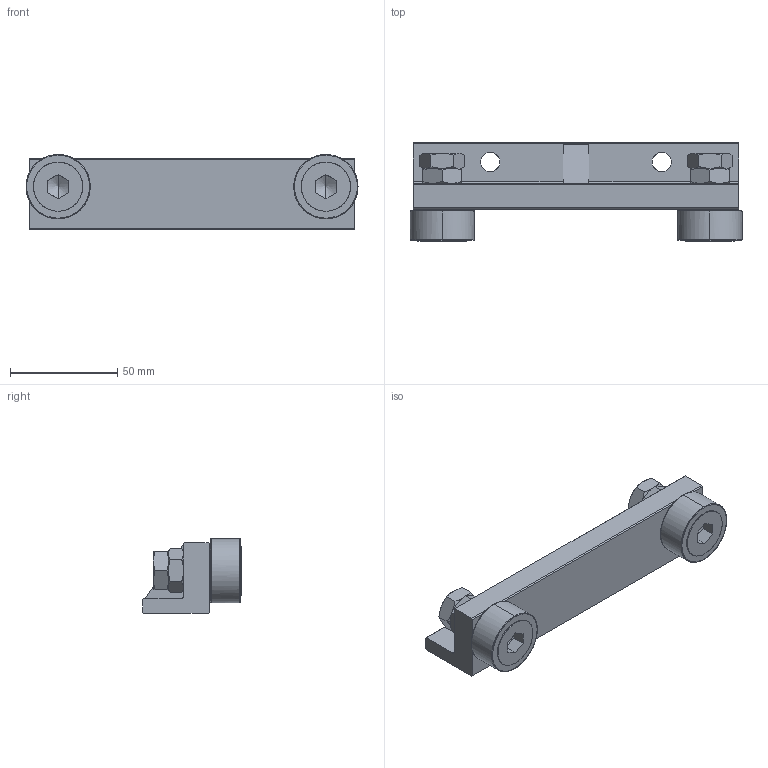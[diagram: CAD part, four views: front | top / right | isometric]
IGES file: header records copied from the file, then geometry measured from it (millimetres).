
Global section: file name: No Iges File Name specified; native system: AutoDesk Inventor R10; preprocessor: AutoDesk Inventor Iges Exporter R10; author: No Author specified; organization: No Organization specified; date: 20101225.153450; units: millimetre
Bounding box: 155 x 46 x 35 mm (x, y, z)
Surface area: 26914.7 mm2 (no closed solid volume)
Topology: 0 solids, 0 shells, 164 faces, 844 edges, 840 vertices
Faces by surface type: bspline 164
